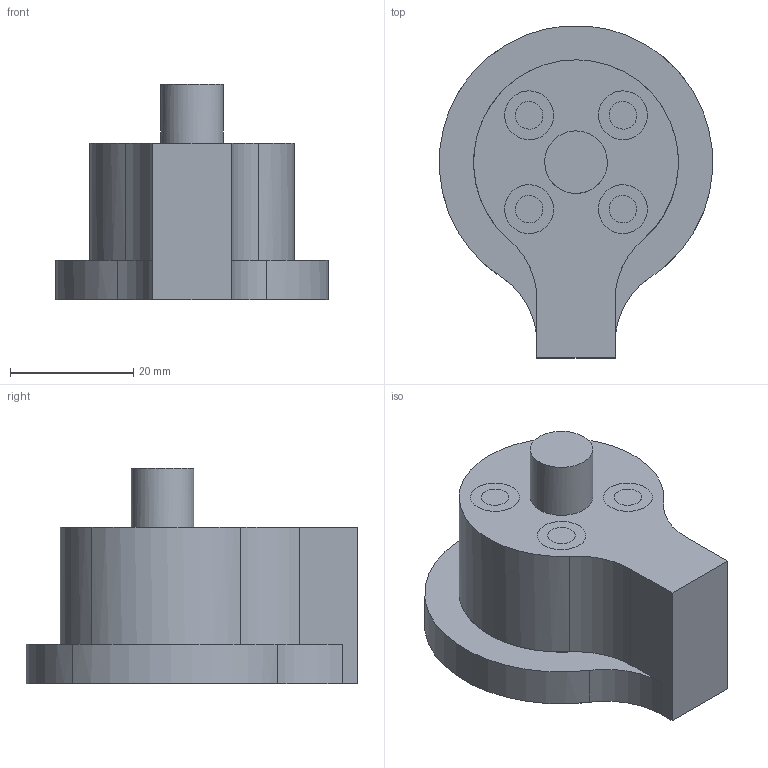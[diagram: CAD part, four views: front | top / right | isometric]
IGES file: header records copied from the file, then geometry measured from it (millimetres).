
Global section: file name: /Users/Pablo/Desktop/atomoptics:projects/laser_cover/drawings/igs/fiber_mold.igs; native system: VectorWorks; preprocessor: HarmonyWare IGES v1.6.3; date: 20100907.144324; units: millimetre
Bounding box: 44.37 x 53.91 x 34.92 mm (x, y, z)
Surface area: 9232.1 mm2 (no closed solid volume)
Topology: 0 solids, 0 shells, 34 faces, 214 edges, 196 vertices
Faces by surface type: bspline 34
